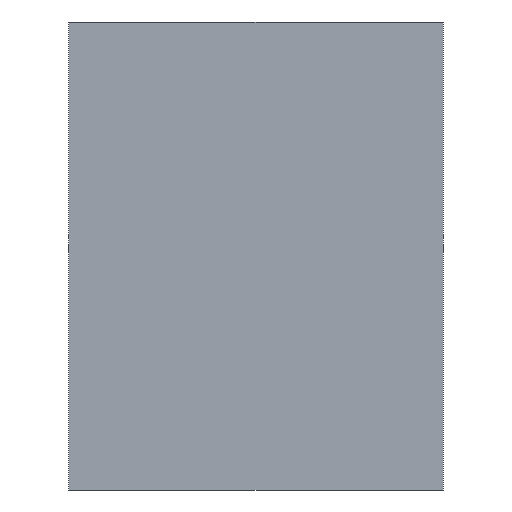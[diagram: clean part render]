
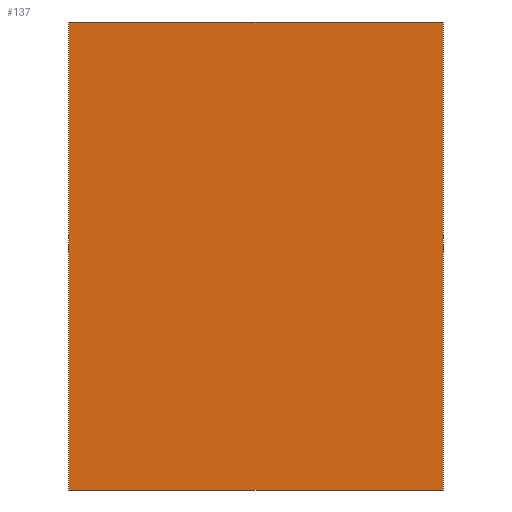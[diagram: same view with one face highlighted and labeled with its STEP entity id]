
A CAD part, front view. The second image highlights one B-rep face of the part: STEP entity #137.
In plain terms, the highlighted planar face has unit normal (0, -1, 0).
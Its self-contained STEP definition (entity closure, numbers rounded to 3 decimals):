
#21 = EDGE_CURVE('',#22,#24,#26,.T.);
#22 = VERTEX_POINT('',#23);
#23 = CARTESIAN_POINT('',(-40.,-39.25,-50.));
#24 = VERTEX_POINT('',#25);
#25 = CARTESIAN_POINT('',(-40.,-39.25,50.));
#26 = SURFACE_CURVE('',#27,(#31,#43),.PCURVE_S1.);
#27 = LINE('',#28,#29);
#28 = CARTESIAN_POINT('',(-40.,-39.25,-50.));
#29 = VECTOR('',#30,1.);
#30 = DIRECTION('',(0.,0.,1.));
#31 = PCURVE('',#32,#37);
#32 = PLANE('',#33);
#33 = AXIS2_PLACEMENT_3D('',#34,#35,#36);
#34 = CARTESIAN_POINT('',(-40.,-39.25,-50.));
#35 = DIRECTION('',(1.,0.,0.));
#36 = DIRECTION('',(0.,0.,1.));
#37 = DEFINITIONAL_REPRESENTATION('',(#38),#42);
#38 = LINE('',#39,#40);
#39 = CARTESIAN_POINT('',(0.,0.));
#40 = VECTOR('',#41,1.);
#41 = DIRECTION('',(1.,0.));
#42 = ( GEOMETRIC_REPRESENTATION_CONTEXT(2) 
PARAMETRIC_REPRESENTATION_CONTEXT() REPRESENTATION_CONTEXT('2D SPACE',''
  ) );
#43 = PCURVE('',#44,#49);
#44 = PLANE('',#45);
#45 = AXIS2_PLACEMENT_3D('',#46,#47,#48);
#46 = CARTESIAN_POINT('',(-40.,-39.25,-50.));
#47 = DIRECTION('',(0.,1.,0.));
#48 = DIRECTION('',(0.,0.,1.));
#49 = DEFINITIONAL_REPRESENTATION('',(#50),#54);
#50 = LINE('',#51,#52);
#51 = CARTESIAN_POINT('',(0.,0.));
#52 = VECTOR('',#53,1.);
#53 = DIRECTION('',(1.,0.));
#54 = ( GEOMETRIC_REPRESENTATION_CONTEXT(2) 
PARAMETRIC_REPRESENTATION_CONTEXT() REPRESENTATION_CONTEXT('2D SPACE',''
  ) );
#72 = PLANE('',#73);
#73 = AXIS2_PLACEMENT_3D('',#74,#75,#76);
#74 = CARTESIAN_POINT('',(-40.,-39.25,-50.));
#75 = DIRECTION('',(0.,0.,1.));
#76 = DIRECTION('',(1.,0.,0.));
#126 = PLANE('',#127);
#127 = AXIS2_PLACEMENT_3D('',#128,#129,#130);
#128 = CARTESIAN_POINT('',(-40.,-39.25,50.));
#129 = DIRECTION('',(0.,0.,1.));
#130 = DIRECTION('',(1.,0.,0.));
#137 = ADVANCED_FACE('',(#138),#44,.F.);
#138 = FACE_BOUND('',#139,.F.);
#139 = EDGE_LOOP('',(#140,#163,#164,#187));
#140 = ORIENTED_EDGE('',*,*,#141,.F.);
#141 = EDGE_CURVE('',#22,#142,#144,.T.);
#142 = VERTEX_POINT('',#143);
#143 = CARTESIAN_POINT('',(40.,-39.25,-50.));
#144 = SURFACE_CURVE('',#145,(#149,#156),.PCURVE_S1.);
#145 = LINE('',#146,#147);
#146 = CARTESIAN_POINT('',(-40.,-39.25,-50.));
#147 = VECTOR('',#148,1.);
#148 = DIRECTION('',(1.,0.,0.));
#149 = PCURVE('',#44,#150);
#150 = DEFINITIONAL_REPRESENTATION('',(#151),#155);
#151 = LINE('',#152,#153);
#152 = CARTESIAN_POINT('',(0.,0.));
#153 = VECTOR('',#154,1.);
#154 = DIRECTION('',(0.,1.));
#155 = ( GEOMETRIC_REPRESENTATION_CONTEXT(2) 
PARAMETRIC_REPRESENTATION_CONTEXT() REPRESENTATION_CONTEXT('2D SPACE',''
  ) );
#156 = PCURVE('',#72,#157);
#157 = DEFINITIONAL_REPRESENTATION('',(#158),#162);
#158 = LINE('',#159,#160);
#159 = CARTESIAN_POINT('',(0.,0.));
#160 = VECTOR('',#161,1.);
#161 = DIRECTION('',(1.,0.));
#162 = ( GEOMETRIC_REPRESENTATION_CONTEXT(2) 
PARAMETRIC_REPRESENTATION_CONTEXT() REPRESENTATION_CONTEXT('2D SPACE',''
  ) );
#163 = ORIENTED_EDGE('',*,*,#21,.T.);
#164 = ORIENTED_EDGE('',*,*,#165,.T.);
#165 = EDGE_CURVE('',#24,#166,#168,.T.);
#166 = VERTEX_POINT('',#167);
#167 = CARTESIAN_POINT('',(40.,-39.25,50.));
#168 = SURFACE_CURVE('',#169,(#173,#180),.PCURVE_S1.);
#169 = LINE('',#170,#171);
#170 = CARTESIAN_POINT('',(-40.,-39.25,50.));
#171 = VECTOR('',#172,1.);
#172 = DIRECTION('',(1.,0.,0.));
#173 = PCURVE('',#44,#174);
#174 = DEFINITIONAL_REPRESENTATION('',(#175),#179);
#175 = LINE('',#176,#177);
#176 = CARTESIAN_POINT('',(100.,0.));
#177 = VECTOR('',#178,1.);
#178 = DIRECTION('',(0.,1.));
#179 = ( GEOMETRIC_REPRESENTATION_CONTEXT(2) 
PARAMETRIC_REPRESENTATION_CONTEXT() REPRESENTATION_CONTEXT('2D SPACE',''
  ) );
#180 = PCURVE('',#126,#181);
#181 = DEFINITIONAL_REPRESENTATION('',(#182),#186);
#182 = LINE('',#183,#184);
#183 = CARTESIAN_POINT('',(0.,0.));
#184 = VECTOR('',#185,1.);
#185 = DIRECTION('',(1.,0.));
#186 = ( GEOMETRIC_REPRESENTATION_CONTEXT(2) 
PARAMETRIC_REPRESENTATION_CONTEXT() REPRESENTATION_CONTEXT('2D SPACE',''
  ) );
#187 = ORIENTED_EDGE('',*,*,#188,.F.);
#188 = EDGE_CURVE('',#142,#166,#189,.T.);
#189 = SURFACE_CURVE('',#190,(#194,#201),.PCURVE_S1.);
#190 = LINE('',#191,#192);
#191 = CARTESIAN_POINT('',(40.,-39.25,-50.));
#192 = VECTOR('',#193,1.);
#193 = DIRECTION('',(0.,0.,1.));
#194 = PCURVE('',#44,#195);
#195 = DEFINITIONAL_REPRESENTATION('',(#196),#200);
#196 = LINE('',#197,#198);
#197 = CARTESIAN_POINT('',(0.,80.));
#198 = VECTOR('',#199,1.);
#199 = DIRECTION('',(1.,0.));
#200 = ( GEOMETRIC_REPRESENTATION_CONTEXT(2) 
PARAMETRIC_REPRESENTATION_CONTEXT() REPRESENTATION_CONTEXT('2D SPACE',''
  ) );
#201 = PCURVE('',#202,#207);
#202 = PLANE('',#203);
#203 = AXIS2_PLACEMENT_3D('',#204,#205,#206);
#204 = CARTESIAN_POINT('',(40.,-39.25,-50.));
#205 = DIRECTION('',(1.,0.,0.));
#206 = DIRECTION('',(0.,0.,1.));
#207 = DEFINITIONAL_REPRESENTATION('',(#208),#212);
#208 = LINE('',#209,#210);
#209 = CARTESIAN_POINT('',(0.,0.));
#210 = VECTOR('',#211,1.);
#211 = DIRECTION('',(1.,0.));
#212 = ( GEOMETRIC_REPRESENTATION_CONTEXT(2) 
PARAMETRIC_REPRESENTATION_CONTEXT() REPRESENTATION_CONTEXT('2D SPACE',''
  ) );
